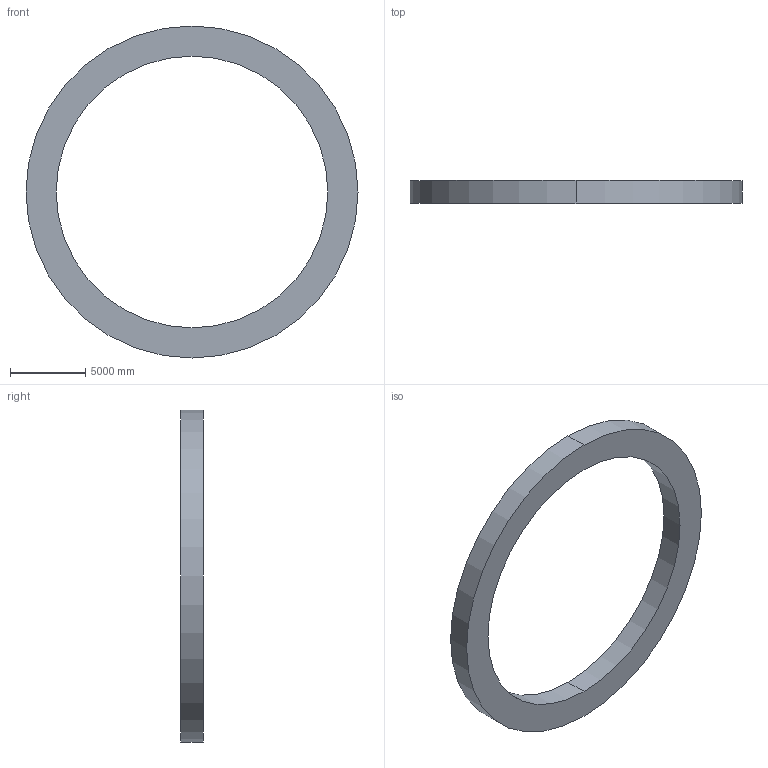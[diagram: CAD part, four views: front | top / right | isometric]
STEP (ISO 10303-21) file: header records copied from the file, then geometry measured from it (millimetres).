
FILE_DESCRIPTION (( 'STEP AP203' ), '1' );
FILE_NAME ('GEO_05_Mega_Solar_Photovoltaic_Wings.STEP', '2026-10-29T18:08:04', ( 'user' ), ( '' ), 'SwSTEP 2.0', 'SolidWorks 2026', '' );
FILE_SCHEMA (( 'CONFIG_CONTROL_DESIGN' ));
Length unit declared in the file: inch
Products named in the file (1): GEO_05_Mega_Solar_Photovoltaic_Wings
Bounding box: 22000 x 1500 x 22000 mm (x, y, z)
Volume: 188495559215.4 mm3; surface area: 439822971.5 mm2
Topology: 1 solids, 1 shells, 6 faces, 12 edges, 8 vertices
Faces by surface type: cylinder 4, plane 2
Entity records: 247 total; most frequent: DIRECTION 34, CARTESIAN_POINT 27, ORIENTED_EDGE 24, AXIS2_PLACEMENT_3D 15, EDGE_CURVE 12, PERSON_AND_ORGANIZATION 8, CIRCLE 8, VERTEX_POINT 8
